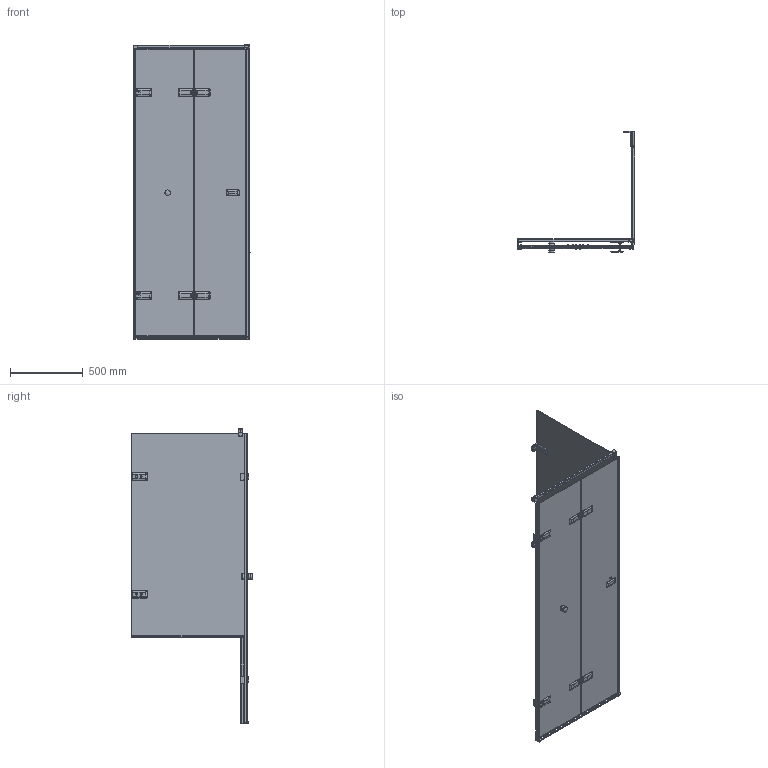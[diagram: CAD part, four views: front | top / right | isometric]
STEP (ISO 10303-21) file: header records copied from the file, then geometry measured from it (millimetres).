
FILE_DESCRIPTION(/* description */ (''),/* implementation_level */ '2;1');
FILE_NAME(/* name */ 'D:\551\TREND SQUARE GK-863АСV\! Не сделано_сделано только левая_картинки\TREND SQUARE GK-863АСV левая модель\TREND SQUARE GK-863АСV ЛЕВАЯ-3D.stp',/* time_stamp */ '2020-12-20T18:21:53+03:00',/* author */ ('User'),/* organization */ (''),/* preprocessor_version */ 'ST-DEVELOPER v15.2',/* originating_system */ 'Autodesk Inventor 2014',/* authorisation */ '');
FILE_SCHEMA (('AUTOMOTIVE_DESIGN { 1 0 10303 214 3 1 1 }'));
Products named in the file (1): TREND SQUARE GK-863АСV \X2\041B041504120410
042F\X0\-3D
Bounding box: 808.63 x 837.1 x 2032 mm (x, y, z)
Volume: 17767294.1 mm3; surface area: 6212472.5 mm2
Topology: 6 solids, 20 shells, 1977 faces, 5295 edges, 3424 vertices
Faces by surface type: plane 1173, cylinder 529, bspline 170, torus 44, cone 43, sphere 18
Full cylindrical faces by diameter (mm): 4.134 x4, 4.2 x6, 4.917 x6, 5.2 x3, 6 x4, 9 x8, 11 x3, 12 x2, 13 x10, 16 x10, 28 x2, 28.5 x2, 38 x4, 40 x2
Entity records: 79897 total; most frequent: CARTESIAN_POINT 29679, ORIENTED_EDGE 9982, DIRECTION 9793, EDGE_CURVE 4988, LINE 3301, VECTOR 3301, AXIS2_PLACEMENT_3D 3246, VERTEX_POINT 3204
